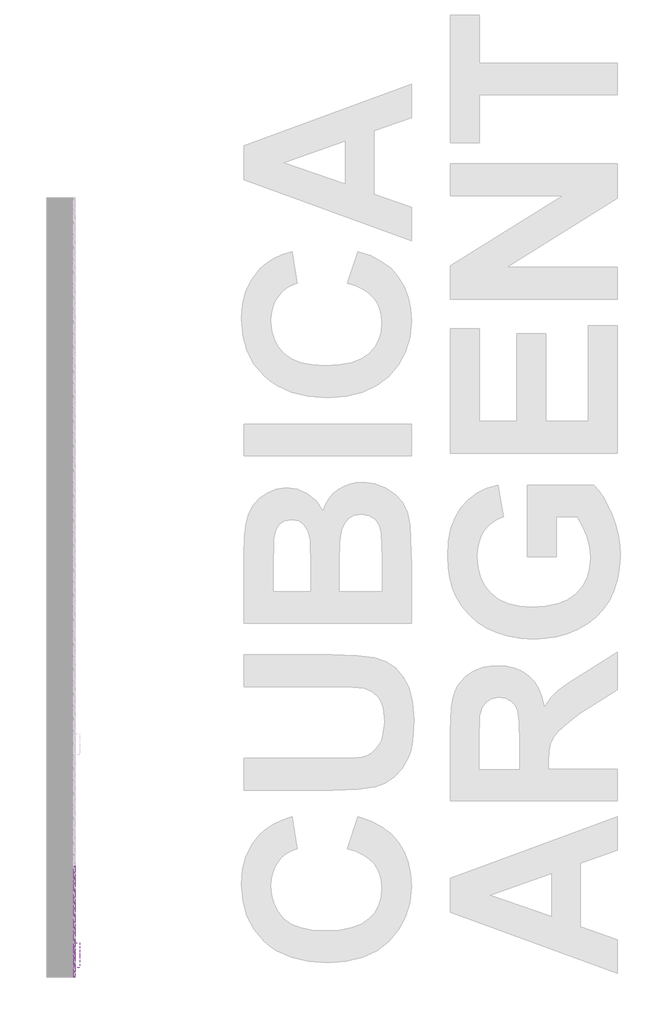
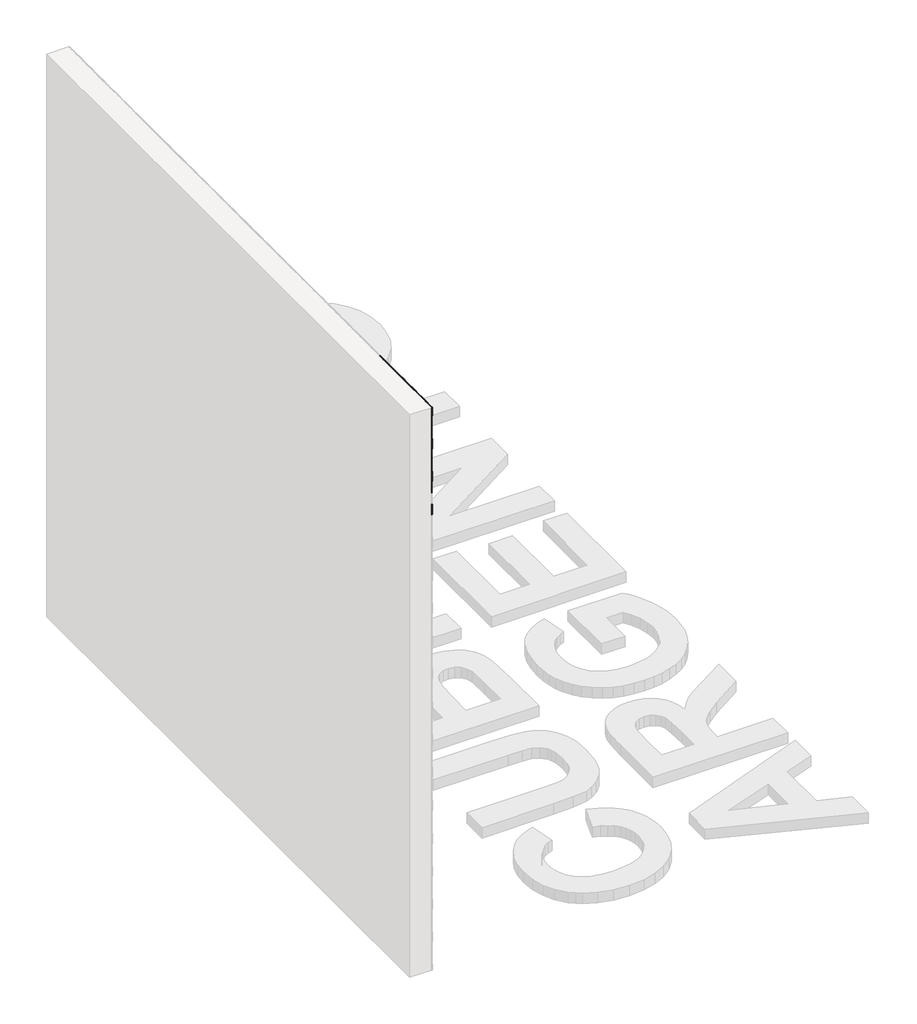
# One storey, part 4 of 121: 122 proxies.
"""IFC4 building model written with IfcOpenShell, lengths in millimetres."""

from ifc_helpers import new_model, si_unit, frame, origin, place, context, project, spatial, polyline, outline, extrude, transform, mapped, element, save
from components import generic_models_b2b2c5c1, generic_models_9bf73f6f, generic_models_5d175859, generic_models_45888c4d, generic_models_95f85f1d, generic_models_65d4feed, generic_models_3c364290, generic_models_eac52c18, generic_models_b652511d

model = new_model("IFC4")

# Units and contexts
model_context = context("Model", 3, world=origin())
ifc_project = project(units=[si_unit("LENGTHUNIT", "METRE", prefix="MILLI")], contexts=[model_context])

# Site, building, storey
site = spatial("IfcSite", under=ifc_project)
building = spatial("IfcBuilding", under=site)
storey = spatial("IfcBuildingStorey", under=building, Name="PORTOBELLO - SHOWROOM", Elevation=0.0)

# Proxies
placement = place(None, origin())
generic_models_shape = generic_models_b2b2c5c1(model_context)
element("IfcBuildingElementProxy", 1, Name="PBSHOP - CUBICA ARGENTO 4,8X8,3 : CUBICA ARGENTO - POSIÇÃO 01", ObjectType="PBSHOP - CUBICA ARGENTO 4,8X8,3 : CUBICA ARGENTO - POSIÇÃO 01", at=placement, inside=storey, context=model_context, shape_type="MappedRepresentation", body=[
    mapped(generic_models_shape, transform((150369.5341846, -5949.2559082, 39.4221668), x_axis=(0.0, 1.0, 0.0), y_axis=(0.0, 0.0, 1.0), z_axis=(1.0, 0.0, 0.0))),
])
element("IfcBuildingElementProxy", 2, Name="PBSHOP - CUBICA ARGENTO 4,8X8,3 : CUBICA ARGENTO - POSIÇÃO 01", ObjectType="PBSHOP - CUBICA ARGENTO 4,8X8,3 : CUBICA ARGENTO - POSIÇÃO 01", at=placement, inside=storey, context=model_context, shape_type="MappedRepresentation", body=[
    mapped(generic_models_shape, transform((150369.5341846, -5858.416639, 39.4221668), x_axis=(0.0, 1.0, 0.0), y_axis=(0.0, 0.0, 1.0), z_axis=(1.0, 0.0, 0.0))),
])
element("IfcBuildingElementProxy", 3, Name="PBSHOP - CUBICA ARGENTO 4,8X8,3 : CUBICA ARGENTO - POSIÇÃO 01", ObjectType="PBSHOP - CUBICA ARGENTO 4,8X8,3 : CUBICA ARGENTO - POSIÇÃO 01", at=placement, inside=storey, context=model_context, shape_type="MappedRepresentation", body=[
    mapped(generic_models_shape, transform((150369.5341846, -5767.5773697, 39.4221668), x_axis=(0.0, 1.0, 0.0), y_axis=(0.0, 0.0, 1.0), z_axis=(1.0, 0.0, 0.0))),
])
element("IfcBuildingElementProxy", 4, Name="PBSHOP - CUBICA ARGENTO 4,8X8,3 : CUBICA ARGENTO - POSIÇÃO 01", ObjectType="PBSHOP - CUBICA ARGENTO 4,8X8,3 : CUBICA ARGENTO - POSIÇÃO 01", at=placement, inside=storey, context=model_context, shape_type="MappedRepresentation", body=[
    mapped(generic_models_shape, transform((150369.5341846, -5676.7381005, 39.4221668), x_axis=(0.0, 1.0, 0.0), y_axis=(0.0, 0.0, 1.0), z_axis=(1.0, 0.0, 0.0))),
])
element("IfcBuildingElementProxy", 5, Name="PBSHOP - CUBICA ARGENTO 4,8X8,3 : CUBICA ARGENTO - POSIÇÃO 01", ObjectType="PBSHOP - CUBICA ARGENTO 4,8X8,3 : CUBICA ARGENTO - POSIÇÃO 01", at=placement, inside=storey, context=model_context, shape_type="MappedRepresentation", body=[
    mapped(generic_models_shape, transform((150369.5341846, -5585.8988312, 39.4221668), x_axis=(0.0, 1.0, 0.0), y_axis=(0.0, 0.0, 1.0), z_axis=(1.0, 0.0, 0.0))),
])
element("IfcBuildingElementProxy", 6, Name="PBSHOP - CUBICA ARGENTO 4,8X8,3 : CUBICA ARGENTO - POSIÇÃO 01", ObjectType="PBSHOP - CUBICA ARGENTO 4,8X8,3 : CUBICA ARGENTO - POSIÇÃO 01", at=placement, inside=storey, context=model_context, shape_type="MappedRepresentation", body=[
    mapped(generic_models_shape, transform((150369.5341846, -5495.059562, 39.4221668), x_axis=(0.0, 1.0, 0.0), y_axis=(0.0, 0.0, 1.0), z_axis=(1.0, 0.0, 0.0))),
])
element("IfcBuildingElementProxy", 7, Name="PBSHOP - CUBICA ARGENTO 4,8X8,3 : CUBICA ARGENTO - POSIÇÃO 01", ObjectType="PBSHOP - CUBICA ARGENTO 4,8X8,3 : CUBICA ARGENTO - POSIÇÃO 01", at=placement, inside=storey, context=model_context, shape_type="MappedRepresentation", body=[
    mapped(generic_models_shape, transform((150369.5341846, -5404.2202927, 39.4221668), x_axis=(0.0, 1.0, 0.0), y_axis=(0.0, 0.0, 1.0), z_axis=(1.0, 0.0, 0.0))),
])
element("IfcBuildingElementProxy", 8, Name="PBSHOP - CUBICA ARGENTO 4,8X8,3 : CUBICA ARGENTO - POSIÇÃO 01", ObjectType="PBSHOP - CUBICA ARGENTO 4,8X8,3 : CUBICA ARGENTO - POSIÇÃO 01", at=placement, inside=storey, context=model_context, shape_type="MappedRepresentation", body=[
    mapped(generic_models_shape, transform((150369.5341846, -5313.3810235, 39.4221668), x_axis=(0.0, 1.0, 0.0), y_axis=(0.0, 0.0, 1.0), z_axis=(1.0, 0.0, 0.0))),
])
element("IfcBuildingElementProxy", 9, Name="PBSHOP - CUBICA ARGENTO 4,8X8,3 : CUBICA ARGENTO - POSIÇÃO 01", ObjectType="PBSHOP - CUBICA ARGENTO 4,8X8,3 : CUBICA ARGENTO - POSIÇÃO 01", at=placement, inside=storey, context=model_context, shape_type="MappedRepresentation", body=[
    mapped(generic_models_shape, transform((150369.5341846, -5222.5417543, 39.4221668), x_axis=(0.0, 1.0, 0.0), y_axis=(0.0, 0.0, 1.0), z_axis=(1.0, 0.0, 0.0))),
])
element("IfcBuildingElementProxy", 10, Name="PBSHOP - CUBICA ARGENTO 4,8X8,3 : CUBICA ARGENTO - POSIÇÃO 01", ObjectType="PBSHOP - CUBICA ARGENTO 4,8X8,3 : CUBICA ARGENTO - POSIÇÃO 01", at=placement, inside=storey, context=model_context, shape_type="MappedRepresentation", body=[
    mapped(generic_models_shape, transform((150369.5341846, -5131.702485, 39.4221668), x_axis=(0.0, 1.0, 0.0), y_axis=(0.0, 0.0, 1.0), z_axis=(1.0, 0.0, 0.0))),
])
element("IfcBuildingElementProxy", 11, Name="PBSHOP - CUBICA ARGENTO 4,8X8,3 : CUBICA ARGENTO - POSIÇÃO 01", ObjectType="PBSHOP - CUBICA ARGENTO 4,8X8,3 : CUBICA ARGENTO - POSIÇÃO 01", at=placement, inside=storey, context=model_context, shape_type="MappedRepresentation", body=[
    mapped(generic_models_shape, transform((150369.5341846, -5040.8632158, 39.4221668), x_axis=(0.0, 1.0, 0.0), y_axis=(0.0, 0.0, 1.0), z_axis=(1.0, 0.0, 0.0))),
])
element("IfcBuildingElementProxy", 12, Name="PBSHOP - CUBICA ARGENTO 4,8X8,3 : CUBICA ARGENTO - POSIÇÃO 01", ObjectType="PBSHOP - CUBICA ARGENTO 4,8X8,3 : CUBICA ARGENTO - POSIÇÃO 01", at=placement, inside=storey, context=model_context, shape_type="MappedRepresentation", body=[
    mapped(generic_models_shape, transform((150369.5341846, -6130.9344467, 2249.5920413), x_axis=(0.0, 1.0, 0.0), y_axis=(0.0, 0.0, 1.0), z_axis=(1.0, 0.0, 0.0))),
])
element("IfcBuildingElementProxy", 13, Name="PBSHOP - CUBICA ARGENTO 4,8X8,3 : CUBICA ARGENTO - POSIÇÃO 01", ObjectType="PBSHOP - CUBICA ARGENTO 4,8X8,3 : CUBICA ARGENTO - POSIÇÃO 01", at=placement, inside=storey, context=model_context, shape_type="MappedRepresentation", body=[
    mapped(generic_models_shape, transform((150369.5341846, -6040.0951775, 2249.5920413), x_axis=(0.0, 1.0, 0.0), y_axis=(0.0, 0.0, 1.0), z_axis=(1.0, 0.0, 0.0))),
])
element("IfcBuildingElementProxy", 14, Name="PBSHOP - CUBICA ARGENTO 4,8X8,3 : CUBICA ARGENTO - POSIÇÃO 01", ObjectType="PBSHOP - CUBICA ARGENTO 4,8X8,3 : CUBICA ARGENTO - POSIÇÃO 01", at=placement, inside=storey, context=model_context, shape_type="MappedRepresentation", body=[
    mapped(generic_models_shape, transform((150369.5341846, -6358.0326198, 2328.5266797), x_axis=(0.0, 1.0, 0.0), y_axis=(0.0, 0.0, 1.0), z_axis=(1.0, 0.0, 0.0))),
])
element("IfcBuildingElementProxy", 15, Name="PBSHOP - CUBICA ARGENTO 4,8X8,3 : CUBICA ARGENTO - POSIÇÃO 01", ObjectType="PBSHOP - CUBICA ARGENTO 4,8X8,3 : CUBICA ARGENTO - POSIÇÃO 01", at=placement, inside=storey, context=model_context, shape_type="MappedRepresentation", body=[
    mapped(generic_models_shape, transform((150369.5341846, -6267.1933506, 2328.5266797), x_axis=(0.0, 1.0, 0.0), y_axis=(0.0, 0.0, 1.0), z_axis=(1.0, 0.0, 0.0))),
])
element("IfcBuildingElementProxy", 16, Name="PBSHOP - CUBICA ARGENTO 4,8X8,3 : CUBICA ARGENTO - POSIÇÃO 01", ObjectType="PBSHOP - CUBICA ARGENTO 4,8X8,3 : CUBICA ARGENTO - POSIÇÃO 01", at=placement, inside=storey, context=model_context, shape_type="MappedRepresentation", body=[
    mapped(generic_models_shape, transform((150369.5341846, -6176.3540813, 2328.5266797), x_axis=(0.0, 1.0, 0.0), y_axis=(0.0, 0.0, 1.0), z_axis=(1.0, 0.0, 0.0))),
])
element("IfcBuildingElementProxy", 17, Name="PBSHOP - CUBICA ARGENTO 4,8X8,3 : CUBICA ARGENTO - POSIÇÃO 01", ObjectType="PBSHOP - CUBICA ARGENTO 4,8X8,3 : CUBICA ARGENTO - POSIÇÃO 01", at=placement, inside=storey, context=model_context, shape_type="MappedRepresentation", body=[
    mapped(generic_models_shape, transform((150369.5341846, -6085.5148121, 2328.5266797), x_axis=(0.0, 1.0, 0.0), y_axis=(0.0, 0.0, 1.0), z_axis=(1.0, 0.0, 0.0))),
])
element("IfcBuildingElementProxy", 18, Name="PBSHOP - CUBICA ARGENTO 4,8X8,3 : CUBICA ARGENTO - POSIÇÃO 01", ObjectType="PBSHOP - CUBICA ARGENTO 4,8X8,3 : CUBICA ARGENTO - POSIÇÃO 01", at=placement, inside=storey, context=model_context, shape_type="MappedRepresentation", body=[
    mapped(generic_models_shape, transform((150369.5341846, -6403.4522544, 2407.461318), x_axis=(0.0, 1.0, 0.0), y_axis=(0.0, 0.0, 1.0), z_axis=(1.0, 0.0, 0.0))),
])
element("IfcBuildingElementProxy", 19, Name="PBSHOP - CUBICA ARGENTO 4,8X8,3 : CUBICA ARGENTO - POSIÇÃO 01", ObjectType="PBSHOP - CUBICA ARGENTO 4,8X8,3 : CUBICA ARGENTO - POSIÇÃO 01", at=placement, inside=storey, context=model_context, shape_type="MappedRepresentation", body=[
    mapped(generic_models_shape, transform((150369.5341846, -6312.6129852, 2407.461318), x_axis=(0.0, 1.0, 0.0), y_axis=(0.0, 0.0, 1.0), z_axis=(1.0, 0.0, 0.0))),
])
element("IfcBuildingElementProxy", 20, Name="PBSHOP - CUBICA ARGENTO 4,8X8,3 : CUBICA ARGENTO - POSIÇÃO 01", ObjectType="PBSHOP - CUBICA ARGENTO 4,8X8,3 : CUBICA ARGENTO - POSIÇÃO 01", at=placement, inside=storey, context=model_context, shape_type="MappedRepresentation", body=[
    mapped(generic_models_shape, transform((150369.5341846, -6221.7737159, 2407.461318), x_axis=(0.0, 1.0, 0.0), y_axis=(0.0, 0.0, 1.0), z_axis=(1.0, 0.0, 0.0))),
])
element("IfcBuildingElementProxy", 21, Name="PBSHOP - CUBICA ARGENTO 4,8X8,3 : CUBICA ARGENTO - POSIÇÃO 01", ObjectType="PBSHOP - CUBICA ARGENTO 4,8X8,3 : CUBICA ARGENTO - POSIÇÃO 01", at=placement, inside=storey, context=model_context, shape_type="MappedRepresentation", body=[
    mapped(generic_models_shape, transform((150369.5341846, -6130.9344467, 2407.461318), x_axis=(0.0, 1.0, 0.0), y_axis=(0.0, 0.0, 1.0), z_axis=(1.0, 0.0, 0.0))),
])
element("IfcBuildingElementProxy", 22, Name="PBSHOP - CUBICA ARGENTO 4,8X8,3 : CUBICA ARGENTO - POSIÇÃO 01", ObjectType="PBSHOP - CUBICA ARGENTO 4,8X8,3 : CUBICA ARGENTO - POSIÇÃO 01", at=placement, inside=storey, context=model_context, shape_type="MappedRepresentation", body=[
    mapped(generic_models_shape, transform((150369.5341846, -6040.0951775, 2407.461318), x_axis=(0.0, 1.0, 0.0), y_axis=(0.0, 0.0, 1.0), z_axis=(1.0, 0.0, 0.0))),
])
element("IfcBuildingElementProxy", 23, Name="PBSHOP - CUBICA ARGENTO 4,8X8,3 : CUBICA ARGENTO - POSIÇÃO 01", ObjectType="PBSHOP - CUBICA ARGENTO 4,8X8,3 : CUBICA ARGENTO - POSIÇÃO 01", at=placement, inside=storey, context=model_context, shape_type="MappedRepresentation", body=[
    mapped(generic_models_shape, transform((150369.5341846, -6358.0326198, 2486.3959564), x_axis=(0.0, 1.0, 0.0), y_axis=(0.0, 0.0, 1.0), z_axis=(1.0, 0.0, 0.0))),
])
element("IfcBuildingElementProxy", 24, Name="PBSHOP - CUBICA ARGENTO 4,8X8,3 : CUBICA ARGENTO - POSIÇÃO 01", ObjectType="PBSHOP - CUBICA ARGENTO 4,8X8,3 : CUBICA ARGENTO - POSIÇÃO 01", at=placement, inside=storey, context=model_context, shape_type="MappedRepresentation", body=[
    mapped(generic_models_shape, transform((150369.5341846, -6267.1933506, 2486.3959564), x_axis=(0.0, 1.0, 0.0), y_axis=(0.0, 0.0, 1.0), z_axis=(1.0, 0.0, 0.0))),
])
element("IfcBuildingElementProxy", 25, Name="PBSHOP - CUBICA ARGENTO 4,8X8,3 : CUBICA ARGENTO - POSIÇÃO 01", ObjectType="PBSHOP - CUBICA ARGENTO 4,8X8,3 : CUBICA ARGENTO - POSIÇÃO 01", at=placement, inside=storey, context=model_context, shape_type="MappedRepresentation", body=[
    mapped(generic_models_shape, transform((150369.5341846, -6176.3540813, 2486.3959564), x_axis=(0.0, 1.0, 0.0), y_axis=(0.0, 0.0, 1.0), z_axis=(1.0, 0.0, 0.0))),
])
element("IfcBuildingElementProxy", 26, Name="PBSHOP - CUBICA ARGENTO 4,8X8,3 : CUBICA ARGENTO - POSIÇÃO 01", ObjectType="PBSHOP - CUBICA ARGENTO 4,8X8,3 : CUBICA ARGENTO - POSIÇÃO 01", at=placement, inside=storey, context=model_context, shape_type="MappedRepresentation", body=[
    mapped(generic_models_shape, transform((150369.5341846, -6085.5148121, 2486.3959564), x_axis=(0.0, 1.0, 0.0), y_axis=(0.0, 0.0, 1.0), z_axis=(1.0, 0.0, 0.0))),
])
element("IfcBuildingElementProxy", 27, Name="PBSHOP - CUBICA ARGENTO 4,8X8,3 : CUBICA ARGENTO - POSIÇÃO 01", ObjectType="PBSHOP - CUBICA ARGENTO 4,8X8,3 : CUBICA ARGENTO - POSIÇÃO 01", at=placement, inside=storey, context=model_context, shape_type="MappedRepresentation", body=[
    mapped(generic_models_shape, transform((150369.5341846, -6403.4522544, 2565.3305948), x_axis=(0.0, 1.0, 0.0), y_axis=(0.0, 0.0, 1.0), z_axis=(1.0, 0.0, 0.0))),
])
element("IfcBuildingElementProxy", 28, Name="PBSHOP - CUBICA ARGENTO 4,8X8,3 : CUBICA ARGENTO - POSIÇÃO 01", ObjectType="PBSHOP - CUBICA ARGENTO 4,8X8,3 : CUBICA ARGENTO - POSIÇÃO 01", at=placement, inside=storey, context=model_context, shape_type="MappedRepresentation", body=[
    mapped(generic_models_shape, transform((150369.5341846, -6312.6129852, 2565.3305948), x_axis=(0.0, 1.0, 0.0), y_axis=(0.0, 0.0, 1.0), z_axis=(1.0, 0.0, 0.0))),
])
element("IfcBuildingElementProxy", 29, Name="PBSHOP - CUBICA ARGENTO 4,8X8,3 : CUBICA ARGENTO - POSIÇÃO 01", ObjectType="PBSHOP - CUBICA ARGENTO 4,8X8,3 : CUBICA ARGENTO - POSIÇÃO 01", at=placement, inside=storey, context=model_context, shape_type="MappedRepresentation", body=[
    mapped(generic_models_shape, transform((150369.5341846, -6221.7737159, 2565.3305948), x_axis=(0.0, 1.0, 0.0), y_axis=(0.0, 0.0, 1.0), z_axis=(1.0, 0.0, 0.0))),
])
element("IfcBuildingElementProxy", 30, Name="PBSHOP - CUBICA ARGENTO 4,8X8,3 : CUBICA ARGENTO - POSIÇÃO 01", ObjectType="PBSHOP - CUBICA ARGENTO 4,8X8,3 : CUBICA ARGENTO - POSIÇÃO 01", at=placement, inside=storey, context=model_context, shape_type="MappedRepresentation", body=[
    mapped(generic_models_shape, transform((150369.5341846, -6130.9344467, 2565.3305948), x_axis=(0.0, 1.0, 0.0), y_axis=(0.0, 0.0, 1.0), z_axis=(1.0, 0.0, 0.0))),
])
element("IfcBuildingElementProxy", 31, Name="PBSHOP - CUBICA ARGENTO 4,8X8,3 : CUBICA ARGENTO - POSIÇÃO 01", ObjectType="PBSHOP - CUBICA ARGENTO 4,8X8,3 : CUBICA ARGENTO - POSIÇÃO 01", at=placement, inside=storey, context=model_context, shape_type="MappedRepresentation", body=[
    mapped(generic_models_shape, transform((150369.5341846, -6040.0951775, 2565.3305948), x_axis=(0.0, 1.0, 0.0), y_axis=(0.0, 0.0, 1.0), z_axis=(1.0, 0.0, 0.0))),
])
element("IfcBuildingElementProxy", 32, Name="PBSHOP - CUBICA ARGENTO 4,8X8,3 : CUBICA ARGENTO - POSIÇÃO 01", ObjectType="PBSHOP - CUBICA ARGENTO 4,8X8,3 : CUBICA ARGENTO - POSIÇÃO 01", at=placement, inside=storey, context=model_context, shape_type="MappedRepresentation", body=[
    mapped(generic_models_shape, transform((150369.5341846, -6358.0326198, 2644.2652332), x_axis=(0.0, 1.0, 0.0), y_axis=(0.0, 0.0, 1.0), z_axis=(1.0, 0.0, 0.0))),
])
element("IfcBuildingElementProxy", 33, Name="PBSHOP - CUBICA ARGENTO 4,8X8,3 : CUBICA ARGENTO - POSIÇÃO 01", ObjectType="PBSHOP - CUBICA ARGENTO 4,8X8,3 : CUBICA ARGENTO - POSIÇÃO 01", at=placement, inside=storey, context=model_context, shape_type="MappedRepresentation", body=[
    mapped(generic_models_shape, transform((150369.5341846, -6267.1933506, 2644.2652332), x_axis=(0.0, 1.0, 0.0), y_axis=(0.0, 0.0, 1.0), z_axis=(1.0, 0.0, 0.0))),
])
element("IfcBuildingElementProxy", 34, Name="PBSHOP - CUBICA ARGENTO 4,8X8,3 : CUBICA ARGENTO - POSIÇÃO 01", ObjectType="PBSHOP - CUBICA ARGENTO 4,8X8,3 : CUBICA ARGENTO - POSIÇÃO 01", at=placement, inside=storey, context=model_context, shape_type="MappedRepresentation", body=[
    mapped(generic_models_shape, transform((150369.5341846, -6176.3540813, 2644.2652332), x_axis=(0.0, 1.0, 0.0), y_axis=(0.0, 0.0, 1.0), z_axis=(1.0, 0.0, 0.0))),
])
element("IfcBuildingElementProxy", 35, Name="PBSHOP - CUBICA ARGENTO 4,8X8,3 : CUBICA ARGENTO - POSIÇÃO 01", ObjectType="PBSHOP - CUBICA ARGENTO 4,8X8,3 : CUBICA ARGENTO - POSIÇÃO 01", at=placement, inside=storey, context=model_context, shape_type="MappedRepresentation", body=[
    mapped(generic_models_shape, transform((150369.5341846, -6085.5148121, 2644.2652332), x_axis=(0.0, 1.0, 0.0), y_axis=(0.0, 0.0, 1.0), z_axis=(1.0, 0.0, 0.0))),
])
generic_models_2_shape = generic_models_9bf73f6f(model_context)
element("IfcBuildingElementProxy", 36, Name="PBSHOP - CUBICA ARGENTO 4,8X8,3 : CUBICA ARGENTO - POSIÇÃO 03", ObjectType="PBSHOP - CUBICA ARGENTO 4,8X8,3 : CUBICA ARGENTO - POSIÇÃO 03", at=placement, inside=storey, context=model_context, shape_type="MappedRepresentation", body=[
    mapped(generic_models_2_shape, transform((150369.5341846, -6335.3206433, 2210.0835117), x_axis=(0.0, 1.0, 0.0), y_axis=(0.0, 0.0, 1.0), z_axis=(1.0, 0.0, 0.0))),
])
element("IfcBuildingElementProxy", 37, Name="PBSHOP - CUBICA ARGENTO 4,8X8,3 : CUBICA ARGENTO - POSIÇÃO 03", ObjectType="PBSHOP - CUBICA ARGENTO 4,8X8,3 : CUBICA ARGENTO - POSIÇÃO 03", at=placement, inside=storey, context=model_context, shape_type="MappedRepresentation", body=[
    mapped(generic_models_2_shape, transform((150369.5341846, -6244.4813741, 2210.0835117), x_axis=(0.0, 1.0, 0.0), y_axis=(0.0, 0.0, 1.0), z_axis=(1.0, 0.0, 0.0))),
])
element("IfcBuildingElementProxy", 38, Name="PBSHOP - CUBICA ARGENTO 4,8X8,3 : CUBICA ARGENTO - POSIÇÃO 03", ObjectType="PBSHOP - CUBICA ARGENTO 4,8X8,3 : CUBICA ARGENTO - POSIÇÃO 03", at=placement, inside=storey, context=model_context, shape_type="MappedRepresentation", body=[
    mapped(generic_models_2_shape, transform((150369.5341846, -6153.6421048, 2210.0835117), x_axis=(0.0, 1.0, 0.0), y_axis=(0.0, 0.0, 1.0), z_axis=(1.0, 0.0, 0.0))),
])
element("IfcBuildingElementProxy", 39, Name="PBSHOP - CUBICA ARGENTO 4,8X8,3 : CUBICA ARGENTO - POSIÇÃO 03", ObjectType="PBSHOP - CUBICA ARGENTO 4,8X8,3 : CUBICA ARGENTO - POSIÇÃO 03", at=placement, inside=storey, context=model_context, shape_type="MappedRepresentation", body=[
    mapped(generic_models_2_shape, transform((150369.5341846, -6062.8028356, 2210.0835117), x_axis=(0.0, 1.0, 0.0), y_axis=(0.0, 0.0, 1.0), z_axis=(1.0, 0.0, 0.0))),
])
element("IfcBuildingElementProxy", 40, Name="PBSHOP - CUBICA ARGENTO 4,8X8,3 : CUBICA ARGENTO - POSIÇÃO 03", ObjectType="PBSHOP - CUBICA ARGENTO 4,8X8,3 : CUBICA ARGENTO - POSIÇÃO 03", at=placement, inside=storey, context=model_context, shape_type="MappedRepresentation", body=[
    mapped(generic_models_2_shape, transform((150369.5341846, -6380.740278, 2289.0181501), x_axis=(0.0, 1.0, 0.0), y_axis=(0.0, 0.0, 1.0), z_axis=(1.0, 0.0, 0.0))),
])
element("IfcBuildingElementProxy", 41, Name="PBSHOP - CUBICA ARGENTO 4,8X8,3 : CUBICA ARGENTO - POSIÇÃO 03", ObjectType="PBSHOP - CUBICA ARGENTO 4,8X8,3 : CUBICA ARGENTO - POSIÇÃO 03", at=placement, inside=storey, context=model_context, shape_type="MappedRepresentation", body=[
    mapped(generic_models_2_shape, transform((150369.5341846, -6289.9010087, 2289.0181501), x_axis=(0.0, 1.0, 0.0), y_axis=(0.0, 0.0, 1.0), z_axis=(1.0, 0.0, 0.0))),
])
element("IfcBuildingElementProxy", 42, Name="PBSHOP - CUBICA ARGENTO 4,8X8,3 : CUBICA ARGENTO - POSIÇÃO 03", ObjectType="PBSHOP - CUBICA ARGENTO 4,8X8,3 : CUBICA ARGENTO - POSIÇÃO 03", at=placement, inside=storey, context=model_context, shape_type="MappedRepresentation", body=[
    mapped(generic_models_2_shape, transform((150369.5341846, -6199.0617395, 2289.0181501), x_axis=(0.0, 1.0, 0.0), y_axis=(0.0, 0.0, 1.0), z_axis=(1.0, 0.0, 0.0))),
])
element("IfcBuildingElementProxy", 43, Name="PBSHOP - CUBICA ARGENTO 4,8X8,3 : CUBICA ARGENTO - POSIÇÃO 03", ObjectType="PBSHOP - CUBICA ARGENTO 4,8X8,3 : CUBICA ARGENTO - POSIÇÃO 03", at=placement, inside=storey, context=model_context, shape_type="MappedRepresentation", body=[
    mapped(generic_models_2_shape, transform((150369.5341846, -6108.2224702, 2289.0181501), x_axis=(0.0, 1.0, 0.0), y_axis=(0.0, 0.0, 1.0), z_axis=(1.0, 0.0, 0.0))),
])
element("IfcBuildingElementProxy", 44, Name="PBSHOP - CUBICA ARGENTO 4,8X8,3 : CUBICA ARGENTO - POSIÇÃO 03", ObjectType="PBSHOP - CUBICA ARGENTO 4,8X8,3 : CUBICA ARGENTO - POSIÇÃO 03", at=placement, inside=storey, context=model_context, shape_type="MappedRepresentation", body=[
    mapped(generic_models_2_shape, transform((150369.5341846, -6017.383201, 2289.0181501), x_axis=(0.0, 1.0, 0.0), y_axis=(0.0, 0.0, 1.0), z_axis=(1.0, 0.0, 0.0))),
])
element("IfcBuildingElementProxy", 45, Name="PBSHOP - CUBICA ARGENTO 4,8X8,3 : CUBICA ARGENTO - POSIÇÃO 03", ObjectType="PBSHOP - CUBICA ARGENTO 4,8X8,3 : CUBICA ARGENTO - POSIÇÃO 03", at=placement, inside=storey, context=model_context, shape_type="MappedRepresentation", body=[
    mapped(generic_models_2_shape, transform((150369.5341846, -6335.3206433, 2367.9527884), x_axis=(0.0, 1.0, 0.0), y_axis=(0.0, 0.0, 1.0), z_axis=(1.0, 0.0, 0.0))),
])
element("IfcBuildingElementProxy", 46, Name="PBSHOP - CUBICA ARGENTO 4,8X8,3 : CUBICA ARGENTO - POSIÇÃO 03", ObjectType="PBSHOP - CUBICA ARGENTO 4,8X8,3 : CUBICA ARGENTO - POSIÇÃO 03", at=placement, inside=storey, context=model_context, shape_type="MappedRepresentation", body=[
    mapped(generic_models_2_shape, transform((150369.5341846, -6244.4813741, 2367.9527884), x_axis=(0.0, 1.0, 0.0), y_axis=(0.0, 0.0, 1.0), z_axis=(1.0, 0.0, 0.0))),
])
element("IfcBuildingElementProxy", 47, Name="PBSHOP - CUBICA ARGENTO 4,8X8,3 : CUBICA ARGENTO - POSIÇÃO 03", ObjectType="PBSHOP - CUBICA ARGENTO 4,8X8,3 : CUBICA ARGENTO - POSIÇÃO 03", at=placement, inside=storey, context=model_context, shape_type="MappedRepresentation", body=[
    mapped(generic_models_2_shape, transform((150369.5341846, -6153.6421048, 2367.9527884), x_axis=(0.0, 1.0, 0.0), y_axis=(0.0, 0.0, 1.0), z_axis=(1.0, 0.0, 0.0))),
])
element("IfcBuildingElementProxy", 48, Name="PBSHOP - CUBICA ARGENTO 4,8X8,3 : CUBICA ARGENTO - POSIÇÃO 03", ObjectType="PBSHOP - CUBICA ARGENTO 4,8X8,3 : CUBICA ARGENTO - POSIÇÃO 03", at=placement, inside=storey, context=model_context, shape_type="MappedRepresentation", body=[
    mapped(generic_models_2_shape, transform((150369.5341846, -6062.8028356, 2367.9527884), x_axis=(0.0, 1.0, 0.0), y_axis=(0.0, 0.0, 1.0), z_axis=(1.0, 0.0, 0.0))),
])
element("IfcBuildingElementProxy", 49, Name="PBSHOP - CUBICA ARGENTO 4,8X8,3 : CUBICA ARGENTO - POSIÇÃO 03", ObjectType="PBSHOP - CUBICA ARGENTO 4,8X8,3 : CUBICA ARGENTO - POSIÇÃO 03", at=placement, inside=storey, context=model_context, shape_type="MappedRepresentation", body=[
    mapped(generic_models_2_shape, transform((150369.5341846, -6380.740278, 2446.8874268), x_axis=(0.0, 1.0, 0.0), y_axis=(0.0, 0.0, 1.0), z_axis=(1.0, 0.0, 0.0))),
])
element("IfcBuildingElementProxy", 50, Name="PBSHOP - CUBICA ARGENTO 4,8X8,3 : CUBICA ARGENTO - POSIÇÃO 03", ObjectType="PBSHOP - CUBICA ARGENTO 4,8X8,3 : CUBICA ARGENTO - POSIÇÃO 03", at=placement, inside=storey, context=model_context, shape_type="MappedRepresentation", body=[
    mapped(generic_models_2_shape, transform((150369.5341846, -6289.9010087, 2446.8874268), x_axis=(0.0, 1.0, 0.0), y_axis=(0.0, 0.0, 1.0), z_axis=(1.0, 0.0, 0.0))),
])
element("IfcBuildingElementProxy", 51, Name="PBSHOP - CUBICA ARGENTO 4,8X8,3 : CUBICA ARGENTO - POSIÇÃO 03", ObjectType="PBSHOP - CUBICA ARGENTO 4,8X8,3 : CUBICA ARGENTO - POSIÇÃO 03", at=placement, inside=storey, context=model_context, shape_type="MappedRepresentation", body=[
    mapped(generic_models_2_shape, transform((150369.5341846, -6199.0617395, 2446.8874268), x_axis=(0.0, 1.0, 0.0), y_axis=(0.0, 0.0, 1.0), z_axis=(1.0, 0.0, 0.0))),
])
element("IfcBuildingElementProxy", 52, Name="PBSHOP - CUBICA ARGENTO 4,8X8,3 : CUBICA ARGENTO - POSIÇÃO 03", ObjectType="PBSHOP - CUBICA ARGENTO 4,8X8,3 : CUBICA ARGENTO - POSIÇÃO 03", at=placement, inside=storey, context=model_context, shape_type="MappedRepresentation", body=[
    mapped(generic_models_2_shape, transform((150369.5341846, -6108.2224702, 2446.8874268), x_axis=(0.0, 1.0, 0.0), y_axis=(0.0, 0.0, 1.0), z_axis=(1.0, 0.0, 0.0))),
])
element("IfcBuildingElementProxy", 53, Name="PBSHOP - CUBICA ARGENTO 4,8X8,3 : CUBICA ARGENTO - POSIÇÃO 03", ObjectType="PBSHOP - CUBICA ARGENTO 4,8X8,3 : CUBICA ARGENTO - POSIÇÃO 03", at=placement, inside=storey, context=model_context, shape_type="MappedRepresentation", body=[
    mapped(generic_models_2_shape, transform((150369.5341846, -6017.383201, 2446.8874268), x_axis=(0.0, 1.0, 0.0), y_axis=(0.0, 0.0, 1.0), z_axis=(1.0, 0.0, 0.0))),
])
element("IfcBuildingElementProxy", 54, Name="PBSHOP - CUBICA ARGENTO 4,8X8,3 : CUBICA ARGENTO - POSIÇÃO 03", ObjectType="PBSHOP - CUBICA ARGENTO 4,8X8,3 : CUBICA ARGENTO - POSIÇÃO 03", at=placement, inside=storey, context=model_context, shape_type="MappedRepresentation", body=[
    mapped(generic_models_2_shape, transform((150369.5341846, -6335.3206433, 2525.8220652), x_axis=(0.0, 1.0, 0.0), y_axis=(0.0, 0.0, 1.0), z_axis=(1.0, 0.0, 0.0))),
])
element("IfcBuildingElementProxy", 55, Name="PBSHOP - CUBICA ARGENTO 4,8X8,3 : CUBICA ARGENTO - POSIÇÃO 03", ObjectType="PBSHOP - CUBICA ARGENTO 4,8X8,3 : CUBICA ARGENTO - POSIÇÃO 03", at=placement, inside=storey, context=model_context, shape_type="MappedRepresentation", body=[
    mapped(generic_models_2_shape, transform((150369.5341846, -6244.4813741, 2525.8220652), x_axis=(0.0, 1.0, 0.0), y_axis=(0.0, 0.0, 1.0), z_axis=(1.0, 0.0, 0.0))),
])
element("IfcBuildingElementProxy", 56, Name="PBSHOP - CUBICA ARGENTO 4,8X8,3 : CUBICA ARGENTO - POSIÇÃO 03", ObjectType="PBSHOP - CUBICA ARGENTO 4,8X8,3 : CUBICA ARGENTO - POSIÇÃO 03", at=placement, inside=storey, context=model_context, shape_type="MappedRepresentation", body=[
    mapped(generic_models_2_shape, transform((150369.5341846, -6153.6421048, 2525.8220652), x_axis=(0.0, 1.0, 0.0), y_axis=(0.0, 0.0, 1.0), z_axis=(1.0, 0.0, 0.0))),
])
element("IfcBuildingElementProxy", 57, Name="PBSHOP - CUBICA ARGENTO 4,8X8,3 : CUBICA ARGENTO - POSIÇÃO 03", ObjectType="PBSHOP - CUBICA ARGENTO 4,8X8,3 : CUBICA ARGENTO - POSIÇÃO 03", at=placement, inside=storey, context=model_context, shape_type="MappedRepresentation", body=[
    mapped(generic_models_2_shape, transform((150369.5341846, -6062.8028356, 2525.8220652), x_axis=(0.0, 1.0, 0.0), y_axis=(0.0, 0.0, 1.0), z_axis=(1.0, 0.0, 0.0))),
])
element("IfcBuildingElementProxy", 58, Name="PBSHOP - CUBICA ARGENTO 4,8X8,3 : CUBICA ARGENTO - POSIÇÃO 03", ObjectType="PBSHOP - CUBICA ARGENTO 4,8X8,3 : CUBICA ARGENTO - POSIÇÃO 03", at=placement, inside=storey, context=model_context, shape_type="MappedRepresentation", body=[
    mapped(generic_models_2_shape, transform((150369.5341846, -6380.740278, 2604.7567035), x_axis=(0.0, 1.0, 0.0), y_axis=(0.0, 0.0, 1.0), z_axis=(1.0, 0.0, 0.0))),
])
element("IfcBuildingElementProxy", 59, Name="PBSHOP - CUBICA ARGENTO 4,8X8,3 : CUBICA ARGENTO - POSIÇÃO 03", ObjectType="PBSHOP - CUBICA ARGENTO 4,8X8,3 : CUBICA ARGENTO - POSIÇÃO 03", at=placement, inside=storey, context=model_context, shape_type="MappedRepresentation", body=[
    mapped(generic_models_2_shape, transform((150369.5341846, -6289.9010087, 2604.7567035), x_axis=(0.0, 1.0, 0.0), y_axis=(0.0, 0.0, 1.0), z_axis=(1.0, 0.0, 0.0))),
])
element("IfcBuildingElementProxy", 60, Name="PBSHOP - CUBICA ARGENTO 4,8X8,3 : CUBICA ARGENTO - POSIÇÃO 03", ObjectType="PBSHOP - CUBICA ARGENTO 4,8X8,3 : CUBICA ARGENTO - POSIÇÃO 03", at=placement, inside=storey, context=model_context, shape_type="MappedRepresentation", body=[
    mapped(generic_models_2_shape, transform((150369.5341846, -6199.0617395, 2604.7567035), x_axis=(0.0, 1.0, 0.0), y_axis=(0.0, 0.0, 1.0), z_axis=(1.0, 0.0, 0.0))),
])
element("IfcBuildingElementProxy", 61, Name="PBSHOP - CUBICA ARGENTO 4,8X8,3 : CUBICA ARGENTO - POSIÇÃO 03", ObjectType="PBSHOP - CUBICA ARGENTO 4,8X8,3 : CUBICA ARGENTO - POSIÇÃO 03", at=placement, inside=storey, context=model_context, shape_type="MappedRepresentation", body=[
    mapped(generic_models_2_shape, transform((150369.5341846, -6108.2224702, 2604.7567035), x_axis=(0.0, 1.0, 0.0), y_axis=(0.0, 0.0, 1.0), z_axis=(1.0, 0.0, 0.0))),
])
element("IfcBuildingElementProxy", 62, Name="PBSHOP - CUBICA ARGENTO 4,8X8,3 : CUBICA ARGENTO - POSIÇÃO 03", ObjectType="PBSHOP - CUBICA ARGENTO 4,8X8,3 : CUBICA ARGENTO - POSIÇÃO 03", at=placement, inside=storey, context=model_context, shape_type="MappedRepresentation", body=[
    mapped(generic_models_2_shape, transform((150369.5341846, -6017.383201, 2604.7567035), x_axis=(0.0, 1.0, 0.0), y_axis=(0.0, 0.0, 1.0), z_axis=(1.0, 0.0, 0.0))),
])
generic_models_3_shape = generic_models_5d175859(model_context)
element("IfcBuildingElementProxy", 63, Name="PBSHOP - CUBICA ARGENTO 4,8X8,3 : CUBICA ARGENTO - POSIÇÃO 01", ObjectType="PBSHOP - CUBICA ARGENTO 4,8X8,3 : CUBICA ARGENTO - POSIÇÃO 01", at=placement, inside=storey, context=model_context, shape_type="MappedRepresentation", body=[
    mapped(generic_models_3_shape, transform((150369.5341846, -5994.6712245, 39.4221668), x_axis=(0.0, -1.0, 0.0), y_axis=(0.0, 0.0, -1.0), z_axis=(1.0, 0.0, 0.0))),
])
element("IfcBuildingElementProxy", 64, Name="PBSHOP - CUBICA ARGENTO 4,8X8,3 : CUBICA ARGENTO - POSIÇÃO 01", ObjectType="PBSHOP - CUBICA ARGENTO 4,8X8,3 : CUBICA ARGENTO - POSIÇÃO 01", at=placement, inside=storey, context=model_context, shape_type="MappedRepresentation", body=[
    mapped(generic_models_3_shape, transform((150369.5341846, -5903.8319553, 39.4221668), x_axis=(0.0, -1.0, 0.0), y_axis=(0.0, 0.0, -1.0), z_axis=(1.0, 0.0, 0.0))),
])
element("IfcBuildingElementProxy", 65, Name="PBSHOP - CUBICA ARGENTO 4,8X8,3 : CUBICA ARGENTO - POSIÇÃO 01", ObjectType="PBSHOP - CUBICA ARGENTO 4,8X8,3 : CUBICA ARGENTO - POSIÇÃO 01", at=placement, inside=storey, context=model_context, shape_type="MappedRepresentation", body=[
    mapped(generic_models_3_shape, transform((150369.5341846, -5812.992686, 39.4221668), x_axis=(0.0, -1.0, 0.0), y_axis=(0.0, 0.0, -1.0), z_axis=(1.0, 0.0, 0.0))),
])
element("IfcBuildingElementProxy", 66, Name="PBSHOP - CUBICA ARGENTO 4,8X8,3 : CUBICA ARGENTO - POSIÇÃO 01", ObjectType="PBSHOP - CUBICA ARGENTO 4,8X8,3 : CUBICA ARGENTO - POSIÇÃO 01", at=placement, inside=storey, context=model_context, shape_type="MappedRepresentation", body=[
    mapped(generic_models_3_shape, transform((150369.5341846, -5722.1534168, 39.4221668), x_axis=(0.0, -1.0, 0.0), y_axis=(0.0, 0.0, -1.0), z_axis=(1.0, 0.0, 0.0))),
])
element("IfcBuildingElementProxy", 67, Name="PBSHOP - CUBICA ARGENTO 4,8X8,3 : CUBICA ARGENTO - POSIÇÃO 01", ObjectType="PBSHOP - CUBICA ARGENTO 4,8X8,3 : CUBICA ARGENTO - POSIÇÃO 01", at=placement, inside=storey, context=model_context, shape_type="MappedRepresentation", body=[
    mapped(generic_models_3_shape, transform((150369.5341846, -5631.3141475, 39.4221668), x_axis=(0.0, -1.0, 0.0), y_axis=(0.0, 0.0, -1.0), z_axis=(1.0, 0.0, 0.0))),
])
element("IfcBuildingElementProxy", 68, Name="PBSHOP - CUBICA ARGENTO 4,8X8,3 : CUBICA ARGENTO - POSIÇÃO 01", ObjectType="PBSHOP - CUBICA ARGENTO 4,8X8,3 : CUBICA ARGENTO - POSIÇÃO 01", at=placement, inside=storey, context=model_context, shape_type="MappedRepresentation", body=[
    mapped(generic_models_3_shape, transform((150369.5341846, -5540.4748783, 39.4221668), x_axis=(0.0, -1.0, 0.0), y_axis=(0.0, 0.0, -1.0), z_axis=(1.0, 0.0, 0.0))),
])
element("IfcBuildingElementProxy", 69, Name="PBSHOP - CUBICA ARGENTO 4,8X8,3 : CUBICA ARGENTO - POSIÇÃO 01", ObjectType="PBSHOP - CUBICA ARGENTO 4,8X8,3 : CUBICA ARGENTO - POSIÇÃO 01", at=placement, inside=storey, context=model_context, shape_type="MappedRepresentation", body=[
    mapped(generic_models_3_shape, transform((150369.5341846, -5449.635609, 39.4221668), x_axis=(0.0, -1.0, 0.0), y_axis=(0.0, 0.0, -1.0), z_axis=(1.0, 0.0, 0.0))),
])
element("IfcBuildingElementProxy", 70, Name="PBSHOP - CUBICA ARGENTO 4,8X8,3 : CUBICA ARGENTO - POSIÇÃO 01", ObjectType="PBSHOP - CUBICA ARGENTO 4,8X8,3 : CUBICA ARGENTO - POSIÇÃO 01", at=placement, inside=storey, context=model_context, shape_type="MappedRepresentation", body=[
    mapped(generic_models_3_shape, transform((150369.5341846, -5358.7963398, 39.4221668), x_axis=(0.0, -1.0, 0.0), y_axis=(0.0, 0.0, -1.0), z_axis=(1.0, 0.0, 0.0))),
])
element("IfcBuildingElementProxy", 71, Name="PBSHOP - CUBICA ARGENTO 4,8X8,3 : CUBICA ARGENTO - POSIÇÃO 01", ObjectType="PBSHOP - CUBICA ARGENTO 4,8X8,3 : CUBICA ARGENTO - POSIÇÃO 01", at=placement, inside=storey, context=model_context, shape_type="MappedRepresentation", body=[
    mapped(generic_models_3_shape, transform((150369.5341846, -5267.9570705, 39.4221668), x_axis=(0.0, -1.0, 0.0), y_axis=(0.0, 0.0, -1.0), z_axis=(1.0, 0.0, 0.0))),
])
element("IfcBuildingElementProxy", 72, Name="PBSHOP - CUBICA ARGENTO 4,8X8,3 : CUBICA ARGENTO - POSIÇÃO 01", ObjectType="PBSHOP - CUBICA ARGENTO 4,8X8,3 : CUBICA ARGENTO - POSIÇÃO 01", at=placement, inside=storey, context=model_context, shape_type="MappedRepresentation", body=[
    mapped(generic_models_3_shape, transform((150369.5341846, -5177.1178013, 39.4221668), x_axis=(0.0, -1.0, 0.0), y_axis=(0.0, 0.0, -1.0), z_axis=(1.0, 0.0, 0.0))),
])
element("IfcBuildingElementProxy", 73, Name="PBSHOP - CUBICA ARGENTO 4,8X8,3 : CUBICA ARGENTO - POSIÇÃO 01", ObjectType="PBSHOP - CUBICA ARGENTO 4,8X8,3 : CUBICA ARGENTO - POSIÇÃO 01", at=placement, inside=storey, context=model_context, shape_type="MappedRepresentation", body=[
    mapped(generic_models_3_shape, transform((150369.5341846, -5086.2785321, 39.4221668), x_axis=(0.0, -1.0, 0.0), y_axis=(0.0, 0.0, -1.0), z_axis=(1.0, 0.0, 0.0))),
])
element("IfcBuildingElementProxy", 74, Name="PBSHOP - CUBICA ARGENTO 4,8X8,3 : CUBICA ARGENTO - POSIÇÃO 01", ObjectType="PBSHOP - CUBICA ARGENTO 4,8X8,3 : CUBICA ARGENTO - POSIÇÃO 01", at=placement, inside=storey, context=model_context, shape_type="MappedRepresentation", body=[
    mapped(generic_models_3_shape, transform((150369.5341846, -6085.5104937, 2249.5920413), x_axis=(0.0, -1.0, 0.0), y_axis=(0.0, 0.0, -1.0), z_axis=(1.0, 0.0, 0.0))),
])
element("IfcBuildingElementProxy", 75, Name="PBSHOP - CUBICA ARGENTO 4,8X8,3 : CUBICA ARGENTO - POSIÇÃO 01", ObjectType="PBSHOP - CUBICA ARGENTO 4,8X8,3 : CUBICA ARGENTO - POSIÇÃO 01", at=placement, inside=storey, context=model_context, shape_type="MappedRepresentation", body=[
    mapped(generic_models_3_shape, transform((150369.5341846, -6312.6086669, 2328.5266797), x_axis=(0.0, -1.0, 0.0), y_axis=(0.0, 0.0, -1.0), z_axis=(1.0, 0.0, 0.0))),
])
element("IfcBuildingElementProxy", 76, Name="PBSHOP - CUBICA ARGENTO 4,8X8,3 : CUBICA ARGENTO - POSIÇÃO 01", ObjectType="PBSHOP - CUBICA ARGENTO 4,8X8,3 : CUBICA ARGENTO - POSIÇÃO 01", at=placement, inside=storey, context=model_context, shape_type="MappedRepresentation", body=[
    mapped(generic_models_3_shape, transform((150369.5341846, -6221.7693976, 2328.5266797), x_axis=(0.0, -1.0, 0.0), y_axis=(0.0, 0.0, -1.0), z_axis=(1.0, 0.0, 0.0))),
])
element("IfcBuildingElementProxy", 77, Name="PBSHOP - CUBICA ARGENTO 4,8X8,3 : CUBICA ARGENTO - POSIÇÃO 01", ObjectType="PBSHOP - CUBICA ARGENTO 4,8X8,3 : CUBICA ARGENTO - POSIÇÃO 01", at=placement, inside=storey, context=model_context, shape_type="MappedRepresentation", body=[
    mapped(generic_models_3_shape, transform((150369.5341846, -6130.9301284, 2328.5266797), x_axis=(0.0, -1.0, 0.0), y_axis=(0.0, 0.0, -1.0), z_axis=(1.0, 0.0, 0.0))),
])
element("IfcBuildingElementProxy", 78, Name="PBSHOP - CUBICA ARGENTO 4,8X8,3 : CUBICA ARGENTO - POSIÇÃO 01", ObjectType="PBSHOP - CUBICA ARGENTO 4,8X8,3 : CUBICA ARGENTO - POSIÇÃO 01", at=placement, inside=storey, context=model_context, shape_type="MappedRepresentation", body=[
    mapped(generic_models_3_shape, transform((150369.5341846, -6040.0908591, 2328.5266797), x_axis=(0.0, -1.0, 0.0), y_axis=(0.0, 0.0, -1.0), z_axis=(1.0, 0.0, 0.0))),
])
element("IfcBuildingElementProxy", 79, Name="PBSHOP - CUBICA ARGENTO 4,8X8,3 : CUBICA ARGENTO - POSIÇÃO 01", ObjectType="PBSHOP - CUBICA ARGENTO 4,8X8,3 : CUBICA ARGENTO - POSIÇÃO 01", at=placement, inside=storey, context=model_context, shape_type="MappedRepresentation", body=[
    mapped(generic_models_3_shape, transform((150369.5341846, -6403.4479361, 2328.5266797), x_axis=(0.0, -1.0, 0.0), y_axis=(0.0, 0.0, -1.0), z_axis=(1.0, 0.0, 0.0))),
])
element("IfcBuildingElementProxy", 80, Name="PBSHOP - CUBICA ARGENTO 4,8X8,3 : CUBICA ARGENTO - POSIÇÃO 01", ObjectType="PBSHOP - CUBICA ARGENTO 4,8X8,3 : CUBICA ARGENTO - POSIÇÃO 01", at=placement, inside=storey, context=model_context, shape_type="MappedRepresentation", body=[
    mapped(generic_models_3_shape, transform((150369.5341846, -6358.0283015, 2407.461318), x_axis=(0.0, -1.0, 0.0), y_axis=(0.0, 0.0, -1.0), z_axis=(1.0, 0.0, 0.0))),
])
element("IfcBuildingElementProxy", 81, Name="PBSHOP - CUBICA ARGENTO 4,8X8,3 : CUBICA ARGENTO - POSIÇÃO 01", ObjectType="PBSHOP - CUBICA ARGENTO 4,8X8,3 : CUBICA ARGENTO - POSIÇÃO 01", at=placement, inside=storey, context=model_context, shape_type="MappedRepresentation", body=[
    mapped(generic_models_3_shape, transform((150369.5341846, -6267.1890322, 2407.461318), x_axis=(0.0, -1.0, 0.0), y_axis=(0.0, 0.0, -1.0), z_axis=(1.0, 0.0, 0.0))),
])
element("IfcBuildingElementProxy", 82, Name="PBSHOP - CUBICA ARGENTO 4,8X8,3 : CUBICA ARGENTO - POSIÇÃO 01", ObjectType="PBSHOP - CUBICA ARGENTO 4,8X8,3 : CUBICA ARGENTO - POSIÇÃO 01", at=placement, inside=storey, context=model_context, shape_type="MappedRepresentation", body=[
    mapped(generic_models_3_shape, transform((150369.5341846, -6176.349763, 2407.461318), x_axis=(0.0, -1.0, 0.0), y_axis=(0.0, 0.0, -1.0), z_axis=(1.0, 0.0, 0.0))),
])
element("IfcBuildingElementProxy", 83, Name="PBSHOP - CUBICA ARGENTO 4,8X8,3 : CUBICA ARGENTO - POSIÇÃO 01", ObjectType="PBSHOP - CUBICA ARGENTO 4,8X8,3 : CUBICA ARGENTO - POSIÇÃO 01", at=placement, inside=storey, context=model_context, shape_type="MappedRepresentation", body=[
    mapped(generic_models_3_shape, transform((150369.5341846, -6085.5104937, 2407.461318), x_axis=(0.0, -1.0, 0.0), y_axis=(0.0, 0.0, -1.0), z_axis=(1.0, 0.0, 0.0))),
])
element("IfcBuildingElementProxy", 84, Name="PBSHOP - CUBICA ARGENTO 4,8X8,3 : CUBICA ARGENTO - POSIÇÃO 01", ObjectType="PBSHOP - CUBICA ARGENTO 4,8X8,3 : CUBICA ARGENTO - POSIÇÃO 01", at=placement, inside=storey, context=model_context, shape_type="MappedRepresentation", body=[
    mapped(generic_models_3_shape, transform((150369.5341846, -6312.6086669, 2486.3959564), x_axis=(0.0, -1.0, 0.0), y_axis=(0.0, 0.0, -1.0), z_axis=(1.0, 0.0, 0.0))),
])
element("IfcBuildingElementProxy", 85, Name="PBSHOP - CUBICA ARGENTO 4,8X8,3 : CUBICA ARGENTO - POSIÇÃO 01", ObjectType="PBSHOP - CUBICA ARGENTO 4,8X8,3 : CUBICA ARGENTO - POSIÇÃO 01", at=placement, inside=storey, context=model_context, shape_type="MappedRepresentation", body=[
    mapped(generic_models_3_shape, transform((150369.5341846, -6221.7693976, 2486.3959564), x_axis=(0.0, -1.0, 0.0), y_axis=(0.0, 0.0, -1.0), z_axis=(1.0, 0.0, 0.0))),
])
element("IfcBuildingElementProxy", 86, Name="PBSHOP - CUBICA ARGENTO 4,8X8,3 : CUBICA ARGENTO - POSIÇÃO 01", ObjectType="PBSHOP - CUBICA ARGENTO 4,8X8,3 : CUBICA ARGENTO - POSIÇÃO 01", at=placement, inside=storey, context=model_context, shape_type="MappedRepresentation", body=[
    mapped(generic_models_3_shape, transform((150369.5341846, -6130.9301284, 2486.3959564), x_axis=(0.0, -1.0, 0.0), y_axis=(0.0, 0.0, -1.0), z_axis=(1.0, 0.0, 0.0))),
])
element("IfcBuildingElementProxy", 87, Name="PBSHOP - CUBICA ARGENTO 4,8X8,3 : CUBICA ARGENTO - POSIÇÃO 01", ObjectType="PBSHOP - CUBICA ARGENTO 4,8X8,3 : CUBICA ARGENTO - POSIÇÃO 01", at=placement, inside=storey, context=model_context, shape_type="MappedRepresentation", body=[
    mapped(generic_models_3_shape, transform((150369.5341846, -6040.0908591, 2486.3959564), x_axis=(0.0, -1.0, 0.0), y_axis=(0.0, 0.0, -1.0), z_axis=(1.0, 0.0, 0.0))),
])
element("IfcBuildingElementProxy", 88, Name="PBSHOP - CUBICA ARGENTO 4,8X8,3 : CUBICA ARGENTO - POSIÇÃO 01", ObjectType="PBSHOP - CUBICA ARGENTO 4,8X8,3 : CUBICA ARGENTO - POSIÇÃO 01", at=placement, inside=storey, context=model_context, shape_type="MappedRepresentation", body=[
    mapped(generic_models_3_shape, transform((150369.5341846, -6403.4479361, 2486.3959564), x_axis=(0.0, -1.0, 0.0), y_axis=(0.0, 0.0, -1.0), z_axis=(1.0, 0.0, 0.0))),
])
element("IfcBuildingElementProxy", 89, Name="PBSHOP - CUBICA ARGENTO 4,8X8,3 : CUBICA ARGENTO - POSIÇÃO 01", ObjectType="PBSHOP - CUBICA ARGENTO 4,8X8,3 : CUBICA ARGENTO - POSIÇÃO 01", at=placement, inside=storey, context=model_context, shape_type="MappedRepresentation", body=[
    mapped(generic_models_3_shape, transform((150369.5341846, -6358.0283015, 2565.3305948), x_axis=(0.0, -1.0, 0.0), y_axis=(0.0, 0.0, -1.0), z_axis=(1.0, 0.0, 0.0))),
])
element("IfcBuildingElementProxy", 90, Name="PBSHOP - CUBICA ARGENTO 4,8X8,3 : CUBICA ARGENTO - POSIÇÃO 01", ObjectType="PBSHOP - CUBICA ARGENTO 4,8X8,3 : CUBICA ARGENTO - POSIÇÃO 01", at=placement, inside=storey, context=model_context, shape_type="MappedRepresentation", body=[
    mapped(generic_models_3_shape, transform((150369.5341846, -6267.1890322, 2565.3305948), x_axis=(0.0, -1.0, 0.0), y_axis=(0.0, 0.0, -1.0), z_axis=(1.0, 0.0, 0.0))),
])
element("IfcBuildingElementProxy", 91, Name="PBSHOP - CUBICA ARGENTO 4,8X8,3 : CUBICA ARGENTO - POSIÇÃO 01", ObjectType="PBSHOP - CUBICA ARGENTO 4,8X8,3 : CUBICA ARGENTO - POSIÇÃO 01", at=placement, inside=storey, context=model_context, shape_type="MappedRepresentation", body=[
    mapped(generic_models_3_shape, transform((150369.5341846, -6176.349763, 2565.3305948), x_axis=(0.0, -1.0, 0.0), y_axis=(0.0, 0.0, -1.0), z_axis=(1.0, 0.0, 0.0))),
])
element("IfcBuildingElementProxy", 92, Name="PBSHOP - CUBICA ARGENTO 4,8X8,3 : CUBICA ARGENTO - POSIÇÃO 01", ObjectType="PBSHOP - CUBICA ARGENTO 4,8X8,3 : CUBICA ARGENTO - POSIÇÃO 01", at=placement, inside=storey, context=model_context, shape_type="MappedRepresentation", body=[
    mapped(generic_models_3_shape, transform((150369.5341846, -6085.5104937, 2565.3305948), x_axis=(0.0, -1.0, 0.0), y_axis=(0.0, 0.0, -1.0), z_axis=(1.0, 0.0, 0.0))),
])
element("IfcBuildingElementProxy", 93, Name="PBSHOP - CUBICA ARGENTO 4,8X8,3 : CUBICA ARGENTO - POSIÇÃO 01", ObjectType="PBSHOP - CUBICA ARGENTO 4,8X8,3 : CUBICA ARGENTO - POSIÇÃO 01", at=placement, inside=storey, context=model_context, shape_type="MappedRepresentation", body=[
    mapped(generic_models_3_shape, transform((150369.5341846, -6312.6086669, 2644.2652332), x_axis=(0.0, -1.0, 0.0), y_axis=(0.0, 0.0, -1.0), z_axis=(1.0, 0.0, 0.0))),
])
element("IfcBuildingElementProxy", 94, Name="PBSHOP - CUBICA ARGENTO 4,8X8,3 : CUBICA ARGENTO - POSIÇÃO 01", ObjectType="PBSHOP - CUBICA ARGENTO 4,8X8,3 : CUBICA ARGENTO - POSIÇÃO 01", at=placement, inside=storey, context=model_context, shape_type="MappedRepresentation", body=[
    mapped(generic_models_3_shape, transform((150369.5341846, -6221.7693976, 2644.2652332), x_axis=(0.0, -1.0, 0.0), y_axis=(0.0, 0.0, -1.0), z_axis=(1.0, 0.0, 0.0))),
])
element("IfcBuildingElementProxy", 95, Name="PBSHOP - CUBICA ARGENTO 4,8X8,3 : CUBICA ARGENTO - POSIÇÃO 01", ObjectType="PBSHOP - CUBICA ARGENTO 4,8X8,3 : CUBICA ARGENTO - POSIÇÃO 01", at=placement, inside=storey, context=model_context, shape_type="MappedRepresentation", body=[
    mapped(generic_models_3_shape, transform((150369.5341846, -6130.9301284, 2644.2652332), x_axis=(0.0, -1.0, 0.0), y_axis=(0.0, 0.0, -1.0), z_axis=(1.0, 0.0, 0.0))),
])
element("IfcBuildingElementProxy", 96, Name="PBSHOP - CUBICA ARGENTO 4,8X8,3 : CUBICA ARGENTO - POSIÇÃO 01", ObjectType="PBSHOP - CUBICA ARGENTO 4,8X8,3 : CUBICA ARGENTO - POSIÇÃO 01", at=placement, inside=storey, context=model_context, shape_type="MappedRepresentation", body=[
    mapped(generic_models_3_shape, transform((150369.5341846, -6040.0908591, 2644.2652332), x_axis=(0.0, -1.0, 0.0), y_axis=(0.0, 0.0, -1.0), z_axis=(1.0, 0.0, 0.0))),
])
element("IfcBuildingElementProxy", 97, Name="PBSHOP - CUBICA ARGENTO 4,8X8,3 : CUBICA ARGENTO - POSIÇÃO 01", ObjectType="PBSHOP - CUBICA ARGENTO 4,8X8,3 : CUBICA ARGENTO - POSIÇÃO 01", at=placement, inside=storey, context=model_context, shape_type="MappedRepresentation", body=[
    mapped(generic_models_3_shape, transform((150369.5341846, -6403.4479361, 2644.2652332), x_axis=(0.0, -1.0, 0.0), y_axis=(0.0, 0.0, -1.0), z_axis=(1.0, 0.0, 0.0))),
])
generic_models_4_shape = generic_models_45888c4d(model_context)
element("IfcBuildingElementProxy", 98, Name="PBSHOP - CUBICA ARGENTO 4,8X8,3 : CUBICA ARGENTO - POSIÇÃO 03", ObjectType="PBSHOP - CUBICA ARGENTO 4,8X8,3 : CUBICA ARGENTO - POSIÇÃO 03", at=placement, inside=storey, context=model_context, shape_type="MappedRepresentation", body=[
    mapped(generic_models_4_shape, transform((150369.5341846, -6426.1599126, 2210.0835117), x_axis=(0.0, 1.0, 0.0), y_axis=(0.0, 0.0, 1.0), z_axis=(1.0, 0.0, 0.0))),
])
element("IfcBuildingElementProxy", 99, Name="PBSHOP - CUBICA ARGENTO 4,8X8,3 : CUBICA ARGENTO - POSIÇÃO 03", ObjectType="PBSHOP - CUBICA ARGENTO 4,8X8,3 : CUBICA ARGENTO - POSIÇÃO 03", at=placement, inside=storey, context=model_context, shape_type="MappedRepresentation", body=[
    mapped(generic_models_4_shape, transform((150369.5341846, -6426.1599126, 2367.9527884), x_axis=(0.0, 1.0, 0.0), y_axis=(0.0, 0.0, 1.0), z_axis=(1.0, 0.0, 0.0))),
])
element("IfcBuildingElementProxy", 100, Name="PBSHOP - CUBICA ARGENTO 4,8X8,3 : CUBICA ARGENTO - POSIÇÃO 03", ObjectType="PBSHOP - CUBICA ARGENTO 4,8X8,3 : CUBICA ARGENTO - POSIÇÃO 03", at=placement, inside=storey, context=model_context, shape_type="MappedRepresentation", body=[
    mapped(generic_models_4_shape, transform((150369.5341846, -6426.1599126, 2525.8220652), x_axis=(0.0, 1.0, 0.0), y_axis=(0.0, 0.0, 1.0), z_axis=(1.0, 0.0, 0.0))),
])
generic_models_5_shape = generic_models_95f85f1d(model_context)
element("IfcBuildingElementProxy", 101, Name="PBSHOP - CUBICA ARGENTO 4,8X8,3 : CUBICA ARGENTO - POSIÇÃO 03", ObjectType="PBSHOP - CUBICA ARGENTO 4,8X8,3 : CUBICA ARGENTO - POSIÇÃO 03", at=placement, inside=storey, context=model_context, shape_type="MappedRepresentation", body=[
    mapped(generic_models_5_shape, transform((150369.5341846, -5971.9635664, -0.0863628), x_axis=(0.0, 1.0, 0.0), y_axis=(0.0, 0.0, 1.0), z_axis=(1.0, 0.0, 0.0))),
])
element("IfcBuildingElementProxy", 102, Name="PBSHOP - CUBICA ARGENTO 4,8X8,3 : CUBICA ARGENTO - POSIÇÃO 03", ObjectType="PBSHOP - CUBICA ARGENTO 4,8X8,3 : CUBICA ARGENTO - POSIÇÃO 03", at=placement, inside=storey, context=model_context, shape_type="MappedRepresentation", body=[
    mapped(generic_models_5_shape, transform((150369.5341846, -5881.1242971, -0.0863628), x_axis=(0.0, 1.0, 0.0), y_axis=(0.0, 0.0, 1.0), z_axis=(1.0, 0.0, 0.0))),
])
element("IfcBuildingElementProxy", 103, Name="PBSHOP - CUBICA ARGENTO 4,8X8,3 : CUBICA ARGENTO - POSIÇÃO 03", ObjectType="PBSHOP - CUBICA ARGENTO 4,8X8,3 : CUBICA ARGENTO - POSIÇÃO 03", at=placement, inside=storey, context=model_context, shape_type="MappedRepresentation", body=[
    mapped(generic_models_5_shape, transform((150369.5341846, -5790.2850279, -0.0863628), x_axis=(0.0, 1.0, 0.0), y_axis=(0.0, 0.0, 1.0), z_axis=(1.0, 0.0, 0.0))),
])
element("IfcBuildingElementProxy", 104, Name="PBSHOP - CUBICA ARGENTO 4,8X8,3 : CUBICA ARGENTO - POSIÇÃO 03", ObjectType="PBSHOP - CUBICA ARGENTO 4,8X8,3 : CUBICA ARGENTO - POSIÇÃO 03", at=placement, inside=storey, context=model_context, shape_type="MappedRepresentation", body=[
    mapped(generic_models_5_shape, transform((150369.5341846, -5699.4457586, -0.0863628), x_axis=(0.0, 1.0, 0.0), y_axis=(0.0, 0.0, 1.0), z_axis=(1.0, 0.0, 0.0))),
])
element("IfcBuildingElementProxy", 105, Name="PBSHOP - CUBICA ARGENTO 4,8X8,3 : CUBICA ARGENTO - POSIÇÃO 03", ObjectType="PBSHOP - CUBICA ARGENTO 4,8X8,3 : CUBICA ARGENTO - POSIÇÃO 03", at=placement, inside=storey, context=model_context, shape_type="MappedRepresentation", body=[
    mapped(generic_models_5_shape, transform((150369.5341846, -5608.6064894, -0.0863628), x_axis=(0.0, 1.0, 0.0), y_axis=(0.0, 0.0, 1.0), z_axis=(1.0, 0.0, 0.0))),
])
element("IfcBuildingElementProxy", 106, Name="PBSHOP - CUBICA ARGENTO 4,8X8,3 : CUBICA ARGENTO - POSIÇÃO 03", ObjectType="PBSHOP - CUBICA ARGENTO 4,8X8,3 : CUBICA ARGENTO - POSIÇÃO 03", at=placement, inside=storey, context=model_context, shape_type="MappedRepresentation", body=[
    mapped(generic_models_5_shape, transform((150369.5341846, -5517.7672201, -0.0863628), x_axis=(0.0, 1.0, 0.0), y_axis=(0.0, 0.0, 1.0), z_axis=(1.0, 0.0, 0.0))),
])
element("IfcBuildingElementProxy", 107, Name="PBSHOP - CUBICA ARGENTO 4,8X8,3 : CUBICA ARGENTO - POSIÇÃO 03", ObjectType="PBSHOP - CUBICA ARGENTO 4,8X8,3 : CUBICA ARGENTO - POSIÇÃO 03", at=placement, inside=storey, context=model_context, shape_type="MappedRepresentation", body=[
    mapped(generic_models_5_shape, transform((150369.5341846, -5426.9279509, -0.0863628), x_axis=(0.0, 1.0, 0.0), y_axis=(0.0, 0.0, 1.0), z_axis=(1.0, 0.0, 0.0))),
])
generic_models_6_shape = generic_models_65d4feed(model_context)
element("IfcBuildingElementProxy", 108, Name="PBSHOP - CUBICA ARGENTO 4,8X8,3 : CUBICA ARGENTO - POSIÇÃO 01", ObjectType="PBSHOP - CUBICA ARGENTO 4,8X8,3 : CUBICA ARGENTO - POSIÇÃO 01", at=placement, inside=storey, context=model_context, shape_type="MappedRepresentation", body=[
    mapped(generic_models_6_shape, transform((150369.5341846, -6403.4522544, 2723.1998715), x_axis=(0.0, 1.0, 0.0), y_axis=(0.0, 0.0, 1.0), z_axis=(1.0, 0.0, 0.0))),
])
element("IfcBuildingElementProxy", 109, Name="PBSHOP - CUBICA ARGENTO 4,8X8,3 : CUBICA ARGENTO - POSIÇÃO 01", ObjectType="PBSHOP - CUBICA ARGENTO 4,8X8,3 : CUBICA ARGENTO - POSIÇÃO 01", at=placement, inside=storey, context=model_context, shape_type="MappedRepresentation", body=[
    mapped(generic_models_6_shape, transform((150369.5341846, -6312.6129852, 2723.1998715), x_axis=(0.0, 1.0, 0.0), y_axis=(0.0, 0.0, 1.0), z_axis=(1.0, 0.0, 0.0))),
])
element("IfcBuildingElementProxy", 110, Name="PBSHOP - CUBICA ARGENTO 4,8X8,3 : CUBICA ARGENTO - POSIÇÃO 01", ObjectType="PBSHOP - CUBICA ARGENTO 4,8X8,3 : CUBICA ARGENTO - POSIÇÃO 01", at=placement, inside=storey, context=model_context, shape_type="MappedRepresentation", body=[
    mapped(generic_models_6_shape, transform((150369.5341846, -6221.7737159, 2723.1998715), x_axis=(0.0, 1.0, 0.0), y_axis=(0.0, 0.0, 1.0), z_axis=(1.0, 0.0, 0.0))),
])
element("IfcBuildingElementProxy", 111, Name="PBSHOP - CUBICA ARGENTO 4,8X8,3 : CUBICA ARGENTO - POSIÇÃO 01", ObjectType="PBSHOP - CUBICA ARGENTO 4,8X8,3 : CUBICA ARGENTO - POSIÇÃO 01", at=placement, inside=storey, context=model_context, shape_type="MappedRepresentation", body=[
    mapped(generic_models_6_shape, transform((150369.5341846, -6130.9344467, 2723.1998715), x_axis=(0.0, 1.0, 0.0), y_axis=(0.0, 0.0, 1.0), z_axis=(1.0, 0.0, 0.0))),
])
element("IfcBuildingElementProxy", 112, Name="PBSHOP - CUBICA ARGENTO 4,8X8,3 : CUBICA ARGENTO - POSIÇÃO 01", ObjectType="PBSHOP - CUBICA ARGENTO 4,8X8,3 : CUBICA ARGENTO - POSIÇÃO 01", at=placement, inside=storey, context=model_context, shape_type="MappedRepresentation", body=[
    mapped(generic_models_6_shape, transform((150369.5341846, -6040.0951775, 2723.1998715), x_axis=(0.0, 1.0, 0.0), y_axis=(0.0, 0.0, 1.0), z_axis=(1.0, 0.0, 0.0))),
])
generic_models_7_shape = generic_models_3c364290(model_context)
element("IfcBuildingElementProxy", 113, Name="PBSHOP - CUBICA ARGENTO 4,8X8,3 : CUBICA ARGENTO - POSIÇÃO 01", ObjectType="PBSHOP - CUBICA ARGENTO 4,8X8,3 : CUBICA ARGENTO - POSIÇÃO 01", at=placement, inside=storey, context=model_context, shape_type="MappedRepresentation", body=[
    mapped(generic_models_7_shape, transform((150369.5341846, -6358.0283015, 2723.1998715), x_axis=(0.0, -1.0, 0.0), y_axis=(0.0, 0.0, -1.0), z_axis=(1.0, 0.0, 0.0))),
])
element("IfcBuildingElementProxy", 114, Name="PBSHOP - CUBICA ARGENTO 4,8X8,3 : CUBICA ARGENTO - POSIÇÃO 01", ObjectType="PBSHOP - CUBICA ARGENTO 4,8X8,3 : CUBICA ARGENTO - POSIÇÃO 01", at=placement, inside=storey, context=model_context, shape_type="MappedRepresentation", body=[
    mapped(generic_models_7_shape, transform((150369.5341846, -6267.1890322, 2723.1998715), x_axis=(0.0, -1.0, 0.0), y_axis=(0.0, 0.0, -1.0), z_axis=(1.0, 0.0, 0.0))),
])
element("IfcBuildingElementProxy", 115, Name="PBSHOP - CUBICA ARGENTO 4,8X8,3 : CUBICA ARGENTO - POSIÇÃO 01", ObjectType="PBSHOP - CUBICA ARGENTO 4,8X8,3 : CUBICA ARGENTO - POSIÇÃO 01", at=placement, inside=storey, context=model_context, shape_type="MappedRepresentation", body=[
    mapped(generic_models_7_shape, transform((150369.5341846, -6176.349763, 2723.1998715), x_axis=(0.0, -1.0, 0.0), y_axis=(0.0, 0.0, -1.0), z_axis=(1.0, 0.0, 0.0))),
])
element("IfcBuildingElementProxy", 116, Name="PBSHOP - CUBICA ARGENTO 4,8X8,3 : CUBICA ARGENTO - POSIÇÃO 01", ObjectType="PBSHOP - CUBICA ARGENTO 4,8X8,3 : CUBICA ARGENTO - POSIÇÃO 01", at=placement, inside=storey, context=model_context, shape_type="MappedRepresentation", body=[
    mapped(generic_models_7_shape, transform((150369.5341846, -6085.5104937, 2723.1998715), x_axis=(0.0, -1.0, 0.0), y_axis=(0.0, 0.0, -1.0), z_axis=(1.0, 0.0, 0.0))),
])
generic_models_8_shape = generic_models_eac52c18(model_context)
element("IfcBuildingElementProxy", 117, Name="PBSHOP - CUBICA ARGENTO 4,8X8,3 : CUBICA ARGENTO - POSIÇÃO 03", ObjectType="PBSHOP - CUBICA ARGENTO 4,8X8,3 : CUBICA ARGENTO - POSIÇÃO 03", at=placement, inside=storey, context=model_context, shape_type="MappedRepresentation", body=[
    mapped(generic_models_8_shape, transform((150369.5341846, -6426.1599126, 2683.6913419), x_axis=(0.0, 1.0, 0.0), y_axis=(0.0, 0.0, 1.0), z_axis=(1.0, 0.0, 0.0))),
])
generic_models_9_shape = generic_models_b652511d(model_context)
element("IfcBuildingElementProxy", 118, Name="PBSHOP - CUBICA ARGENTO 4,8X8,3 : CUBICA ARGENTO - POSIÇÃO 03", ObjectType="PBSHOP - CUBICA ARGENTO 4,8X8,3 : CUBICA ARGENTO - POSIÇÃO 03", at=placement, inside=storey, context=model_context, shape_type="MappedRepresentation", body=[
    mapped(generic_models_9_shape, transform((150369.5341846, -6335.3206433, 2683.6913419), x_axis=(0.0, 1.0, 0.0), y_axis=(0.0, 0.0, 1.0), z_axis=(1.0, 0.0, 0.0))),
])
element("IfcBuildingElementProxy", 119, Name="PBSHOP - CUBICA ARGENTO 4,8X8,3 : CUBICA ARGENTO - POSIÇÃO 03", ObjectType="PBSHOP - CUBICA ARGENTO 4,8X8,3 : CUBICA ARGENTO - POSIÇÃO 03", at=placement, inside=storey, context=model_context, shape_type="MappedRepresentation", body=[
    mapped(generic_models_9_shape, transform((150369.5341846, -6244.4813741, 2683.6913419), x_axis=(0.0, 1.0, 0.0), y_axis=(0.0, 0.0, 1.0), z_axis=(1.0, 0.0, 0.0))),
])
element("IfcBuildingElementProxy", 120, Name="PBSHOP - CUBICA ARGENTO 4,8X8,3 : CUBICA ARGENTO - POSIÇÃO 03", ObjectType="PBSHOP - CUBICA ARGENTO 4,8X8,3 : CUBICA ARGENTO - POSIÇÃO 03", at=placement, inside=storey, context=model_context, shape_type="MappedRepresentation", body=[
    mapped(generic_models_9_shape, transform((150369.5341846, -6153.6421048, 2683.6913419), x_axis=(0.0, 1.0, 0.0), y_axis=(0.0, 0.0, 1.0), z_axis=(1.0, 0.0, 0.0))),
])
element("IfcBuildingElementProxy", 121, Name="PBSHOP - CUBICA ARGENTO 4,8X8,3 : CUBICA ARGENTO - POSIÇÃO 03", ObjectType="PBSHOP - CUBICA ARGENTO 4,8X8,3 : CUBICA ARGENTO - POSIÇÃO 03", at=placement, inside=storey, context=model_context, shape_type="MappedRepresentation", body=[
    mapped(generic_models_9_shape, transform((150369.5341846, -6062.8028356, 2683.6913419), x_axis=(0.0, 1.0, 0.0), y_axis=(0.0, 0.0, 1.0), z_axis=(1.0, 0.0, 0.0))),
])
element("IfcBuildingElementProxy", 122, Name="10mm Arial", ObjectType="10mm Arial", at=placement, inside=storey, context=model_context, shape_type="SweptSolid", body=[
    extrude(outline(polyline([(-6390.9834434, 2556.6361316), (-6350.8843059, 2657.0924418), (-6340.1912026, 2657.0924418), (-6300.0920651, 2556.6361316), (-6313.3603424, 2556.6361316), (-6324.8627861, 2588.0287285), (-6366.2372478, 2588.0287285), (-6377.7151661, 2556.6361316), (-6390.9834434, 2556.6361316)]), holes=[polyline([(-6361.6264602, 2600.5857673), (-6329.4490483, 2600.5857673), (-6338.4989454, 2625.2829119), (-6345.5377542, 2644.535403), (-6351.7917482, 2627.441153), (-6361.6264602, 2600.5857673)])]), frame((150371.5341846, 0.0, 0.0), z_axis=(1.0, 0.0, 0.0), x_axis=(0.0, 1.0, 0.0)), (0.0, 0.0, 1.0), 20.0),
    extrude(outline(polyline([(-6288.2462649, 2556.6361316), (-6288.2462649, 2630.4087344), (-6277.2588559, 2630.4087344), (-6277.2588559, 2619.4949019), (-6269.4597576, 2629.5503431), (-6261.6116084, 2631.9783642), (-6249.0055187, 2628.1033406), (-6253.1993735, 2616.8461515), (-6262.0285413, 2619.4213255), (-6269.1286638, 2616.9442534), (-6273.6536124, 2610.0771228), (-6275.6892261, 2595.4108939), (-6275.6892261, 2556.6361316), (-6288.2462649, 2556.6361316)])), frame((150371.5341846, 0.0, 0.0), z_axis=(1.0, 0.0, 0.0), x_axis=(0.0, 1.0, 0.0)), (0.0, 0.0, 1.0), 20.0),
    extrude(outline(polyline([(-6244.2966292, 2550.3576122), (-6231.7395904, 2548.7879824), (-6227.668363, 2542.1661065), (-6215.4792062, 2539.3702033), (-6202.6278618, 2542.5339885), (-6196.4964953, 2551.4122073), (-6195.6381039, 2566.0539107), (-6204.4795346, 2558.9905764), (-6215.258477, 2556.6361316), (-6228.2048576, 2559.3768525), (-6237.8586943, 2567.5990151), (-6243.8643678, 2579.6532818), (-6245.866259, 2593.890315), (-6242.2732782, 2613.3512725), (-6231.8744805, 2627.1223219), (-6215.8716137, 2631.9783642), (-6204.6696069, 2629.231512), (-6195.6381039, 2620.9909553), (-6195.6381039, 2630.4087344), (-6183.0810652, 2630.4087344), (-6183.0810652, 2566.7160983), (-6186.5146305, 2542.325522), (-6197.3916748, 2530.9824938), (-6215.7244609, 2526.8131645), (-6227.4077799, 2528.2816268), (-6236.6078955, 2532.6870137), (-6242.5093358, 2540.041588), (-6244.2966292, 2550.3576122)]), holes=[polyline([(-6233.3092202, 2594.7487063), (-6231.9695166, 2583.2309342), (-6227.9504058, 2575.3122742), (-6221.9079441, 2570.7229464), (-6214.4981876, 2569.1931704), (-6207.1436133, 2570.7137493), (-6201.0704947, 2575.275486), (-6196.9962016, 2583.0929784), (-6195.6381039, 2594.3808243), (-6197.0360555, 2605.2670657), (-6201.2299103, 2613.1060179), (-6207.3919337, 2617.8424986), (-6214.6943913, 2619.4213255), (-6221.8650245, 2617.867024), (-6227.8768294, 2613.2041197), (-6231.9511225, 2605.4816635), (-6233.3092202, 2594.7487063)])]), frame((150371.5341846, 0.0, 0.0), z_axis=(1.0, 0.0, 0.0), x_axis=(0.0, 1.0, 0.0)), (0.0, 0.0, 1.0), 20.0),
    extrude(outline(polyline([(-6112.5948749, 2578.6109495), (-6100.2830908, 2577.0413196), (-6104.7191345, 2567.764562), (-6111.7977972, 2560.8299864), (-6121.3596634, 2556.5073729), (-6133.2453176, 2555.0665018), (-6147.9789915, 2557.5527709), (-6159.3158883, 2565.0115784), (-6166.5447695, 2576.9585462), (-6168.9543966, 2592.9092963), (-6166.520244, 2609.3965411), (-6159.2177864, 2621.7267193), (-6148.0341738, 2629.415453), (-6133.9565561, 2631.9783642), (-6120.3173311, 2629.4215844), (-6109.418827, 2621.7512448), (-6102.2727192, 2609.445592), (-6099.8906833, 2592.9828727), (-6099.9642597, 2589.5983584), (-6156.3973578, 2589.5983584), (-6154.2237883, 2580.1989734), (-6149.1746079, 2573.2889233), (-6141.8874788, 2569.0398862), (-6133.0000629, 2567.6235405), (-6120.6882788, 2570.2477654), (-6112.5948749, 2578.6109495)]), holes=[polyline([(-6156.3973578, 2602.1553972), (-6112.4477221, 2602.1553972), (-6117.4754427, 2613.5352135), (-6124.7962944, 2617.9497975), (-6134.005607, 2619.4213255), (-6149.4689135, 2614.7246987), (-6154.3341529, 2609.2340599), (-6156.3973578, 2602.1553972)])]), frame((150371.5341846, 0.0, 0.0), z_axis=(1.0, 0.0, 0.0), x_axis=(0.0, 1.0, 0.0)), (0.0, 0.0, 1.0), 20.0),
    extrude(outline(polyline([(-6087.3336446, 2556.6361316), (-6087.3336446, 2630.4087344), (-6074.7766058, 2630.4087344), (-6074.7766058, 2620.1080385), (-6065.1748857, 2629.0107828), (-6052.066024, 2631.9783642), (-6040.207961, 2629.5871313), (-6032.1145571, 2623.3086119), (-6028.349898, 2614.0747738), (-6027.6877104, 2601.934668), (-6027.6877104, 2556.6361316), (-6040.2447492, 2556.6361316), (-6040.2447492, 2600.2424108), (-6041.6917517, 2611.352447), (-6046.8053114, 2617.2262962), (-6055.4260128, 2619.4213255), (-6069.0499094, 2614.4917067), (-6073.3449317, 2607.3486647), (-6074.7766058, 2595.7787759), (-6074.7766058, 2556.6361316), (-6087.3336446, 2556.6361316)])), frame((150371.5341846, 0.0, 0.0), z_axis=(1.0, 0.0, 0.0), x_axis=(0.0, 1.0, 0.0)), (0.0, 0.0, 1.0), 20.0),
    extrude(outline(polyline([(-5983.7380747, 2567.1085058), (-5982.1684449, 2556.2682496), (-5991.5616985, 2555.0665018), (-6002.0831235, 2557.1511664), (-6007.3315733, 2562.6203454), (-6008.8521523, 2576.8696414), (-6008.8521523, 2617.8516956), (-6018.2699313, 2617.8516956), (-6018.2699313, 2630.4087344), (-6008.8521523, 2630.4087344), (-6008.8521523, 2648.3368503), (-5996.2951135, 2655.7190157), (-5996.2951135, 2630.4087344), (-5983.7380747, 2630.4087344), (-5983.7380747, 2617.8516956), (-5996.2951135, 2617.8516956), (-5996.2951135, 2577.2375234), (-5995.6329259, 2570.7628002), (-5993.4869476, 2568.4696691), (-5989.2072537, 2567.6235405), (-5983.7380747, 2567.1085058)])), frame((150371.5341846, 0.0, 0.0), z_axis=(1.0, 0.0, 0.0), x_axis=(0.0, 1.0, 0.0)), (0.0, 0.0, 1.0), 20.0),
    extrude(outline(polyline([(-5974.3202956, 2593.522433), (-5971.6041002, 2611.3095275), (-5963.455514, 2623.8113839), (-5953.3878101, 2629.9366192), (-5941.3335434, 2631.9783642), (-5928.1419082, 2629.4920951), (-5917.6051547, 2622.0332876), (-5910.6981703, 2610.1905531), (-5908.3958421, 2594.5525026), (-5912.4670695, 2572.2098028), (-5924.3251325, 2559.5669249), (-5941.3335434, 2555.0665018), (-5954.6845941, 2557.5435739), (-5965.2090849, 2564.9747902), (-5972.042493, 2577.0658451), (-5974.3202956, 2593.522433)]), holes=[polyline([(-5961.7632569, 2593.5469585), (-5960.310123, 2582.1824705), (-5955.9507213, 2574.0860009), (-5949.3901591, 2569.2391556), (-5941.3335434, 2567.6235405), (-5933.3137159, 2569.2483527), (-5926.7654164, 2574.1227891), (-5922.4060148, 2582.3265576), (-5920.9528809, 2593.9393659), (-5922.4152118, 2604.9727601), (-5926.8022046, 2612.9588651), (-5933.3597012, 2617.8057104), (-5941.3335434, 2619.4213255), (-5949.3901591, 2617.8118417), (-5955.9507213, 2612.9833906), (-5960.310123, 2604.9053151), (-5961.7632569, 2593.5469585)])]), frame((150371.5341846, 0.0, 0.0), z_axis=(1.0, 0.0, 0.0), x_axis=(0.0, 1.0, 0.0)), (0.0, 0.0, 1.0), 20.0),
])

save(model, "model.ifc")
